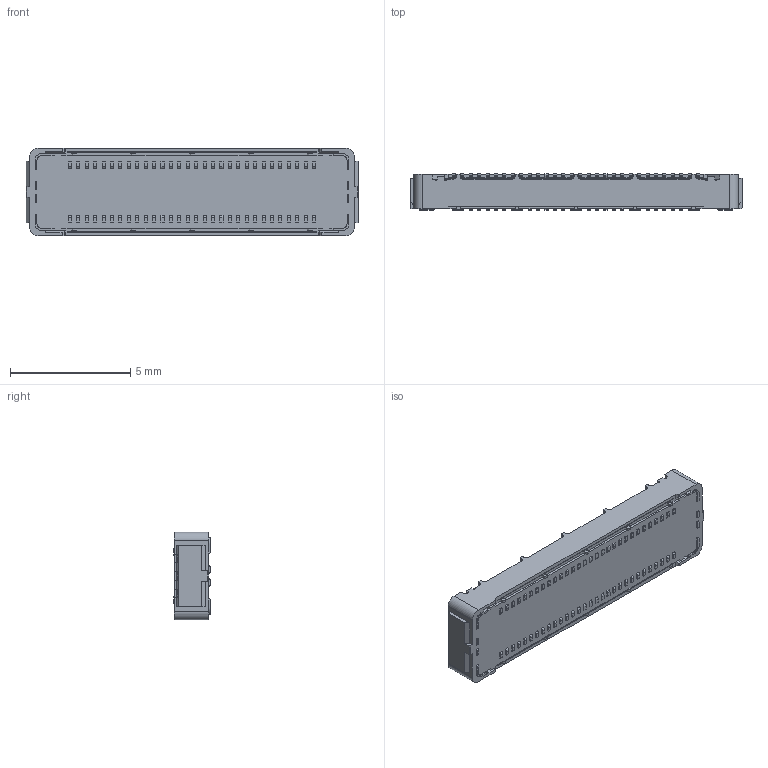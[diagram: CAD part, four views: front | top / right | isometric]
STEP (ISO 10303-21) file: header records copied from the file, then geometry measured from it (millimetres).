
FILE_DESCRIPTION (( 'STEP AP214' ), '1' );
FILE_NAME ('21003-060E+21004-060EC NOVASTACK 35-HDH MATING STEP R4R4.STEP', '2022-07-07T11:00:41', ( '' ), ( '' ), 'SwSTEP 2.0', 'SolidWorks 2020', '' );
FILE_SCHEMA (( 'AUTOMOTIVE_DESIGN' ));
Length unit declared in the file: millimetre
Products named in the file (1): 21003-060E+21004-060EC NOVASTACK 35-HDH MATING STEP R4R4
Bounding box: 13.8 x 1.5 x 3.64 mm (x, y, z)
Volume: 64.5 mm3; surface area: 173.2 mm2
Topology: 1 solids, 1 shells, 1764 faces, 4944 edges, 3250 vertices
Faces by surface type: plane 1320, cylinder 444
Entity records: 56338 total; most frequent: CARTESIAN_POINT 10283, ORIENTED_EDGE 9888, DIRECTION 9234, EDGE_CURVE 4944, LINE 3968, VECTOR 3968, VERTEX_POINT 3250, AXIS2_PLACEMENT_3D 2633
